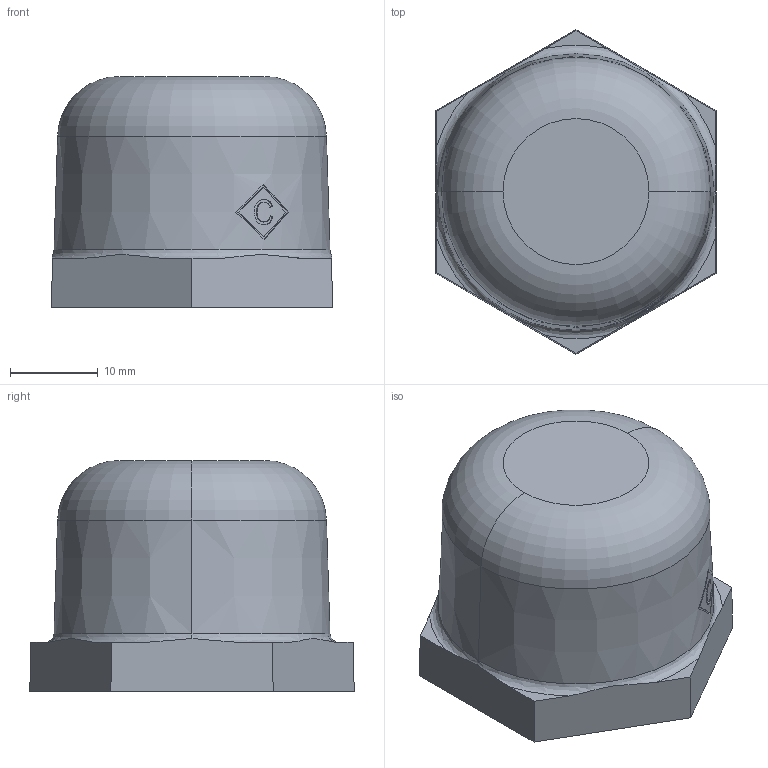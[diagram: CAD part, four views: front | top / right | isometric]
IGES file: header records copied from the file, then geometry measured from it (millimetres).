
Global section: file name: No Iges File Name specified; native system: AutoDesk Inventor R12.0; preprocessor: AutoDesk Inventor Iges Exporter R12.0; date: 20090917.085755; units: millimetre
Bounding box: 32 x 36.95 x 26.3 mm (x, y, z)
Volume: 11276.8 mm3; surface area: 5327.3 mm2
Topology: 1 solids, 1 shells, 48 faces, 118 edges, 76 vertices
Faces by surface type: plane 25, bspline 12, cone 5, revolution 4, torus 2
